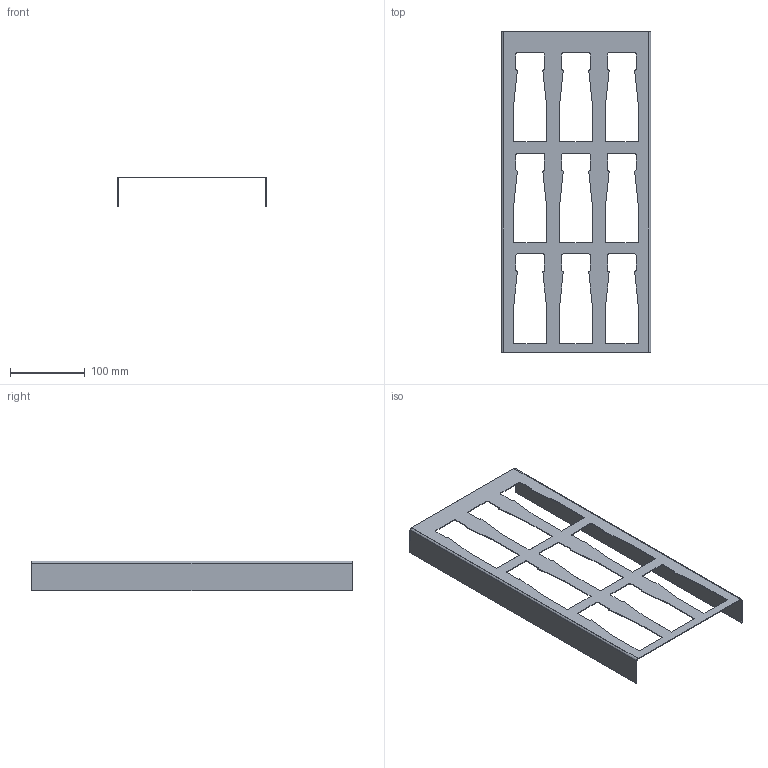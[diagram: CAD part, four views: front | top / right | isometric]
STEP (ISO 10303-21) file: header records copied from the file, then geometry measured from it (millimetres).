
FILE_DESCRIPTION (( 'STEP AP214' ), '1' );
FILE_NAME ('Gewuerzeinsatz_68330-01.STEP', '2010-10-25T13:57:51', ( 'grass' ), ( '' ), 'SwSTEP 2.0', 'SolidWorks 2010', '' );
FILE_SCHEMA (( 'AUTOMOTIVE_DESIGN' ));
Length unit declared in the file: millimetre
Products named in the file (1): Gewuerzeinsatz_68330-01
Bounding box: 200 x 429 x 40 mm (x, y, z)
Volume: 74218.3 mm3; surface area: 152754.2 mm2
Topology: 1 solids, 1 shells, 122 faces, 360 edges, 240 vertices
Faces by surface type: plane 82, cylinder 40
Entity records: 4134 total; most frequent: CARTESIAN_POINT 723, ORIENTED_EDGE 720, DIRECTION 686, EDGE_CURVE 360, VECTOR 280, LINE 280, VERTEX_POINT 240, AXIS2_PLACEMENT_3D 203
